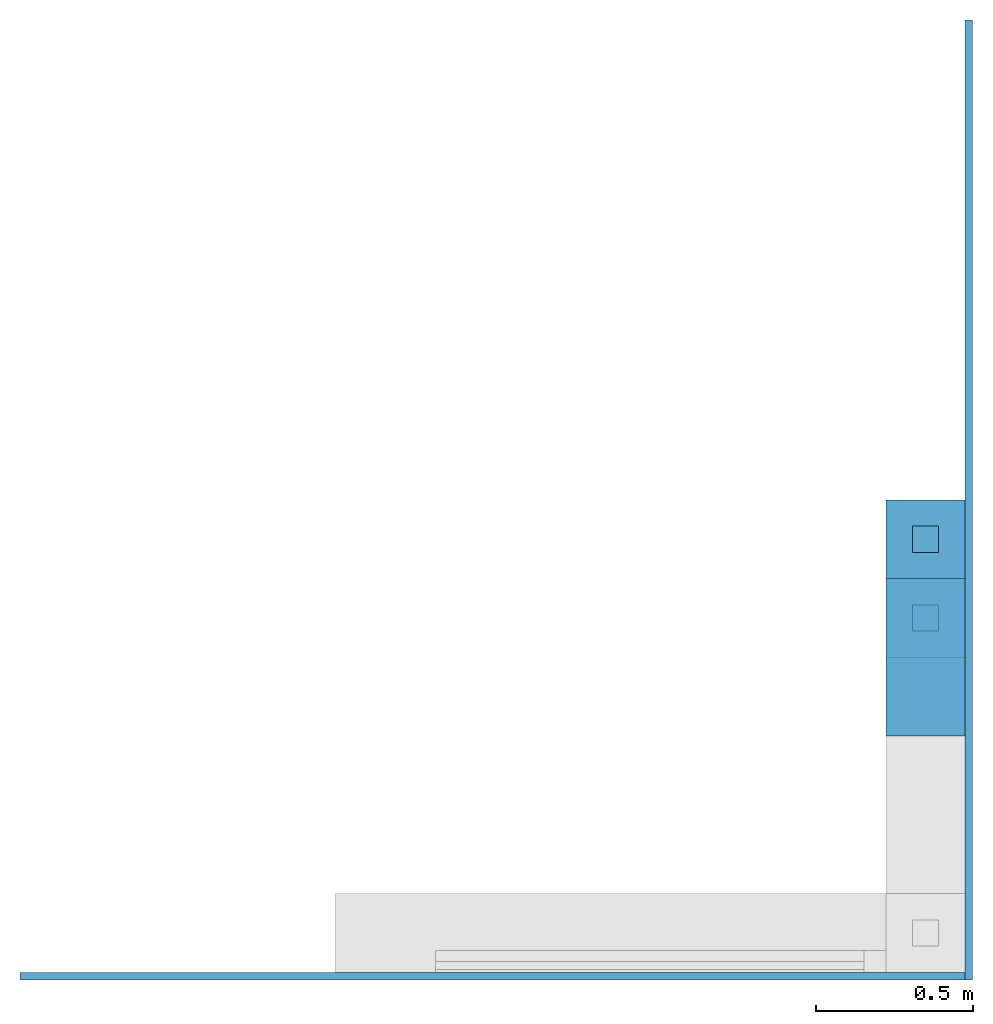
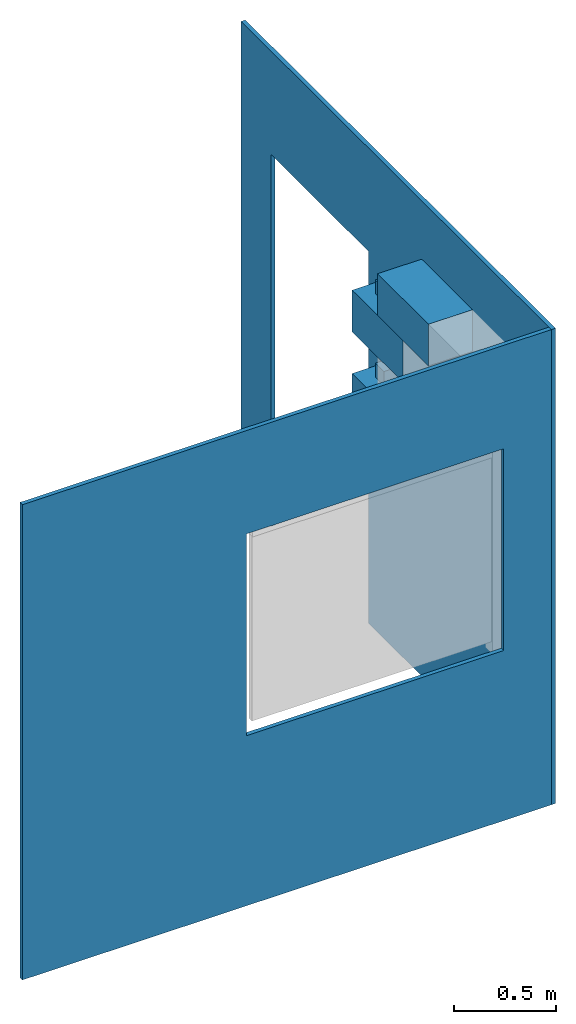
# One storey, part 4 of 5: 3 walls, 2 building element parts, 1 opening, 2 elements without a shape of their own.
"""IFC4 building model written with IfcOpenShell, lengths in centimetres."""

from ifc_helpers import new_model, entity, si_unit, converted_unit, direction, frame, origin, place, context, subcontext, project, spatial, indexed_curve, outline, extrude, polygons, material, type_object, element, aggregate, save


model = new_model("IFC4")

# Units and contexts
model_context = context("Model", 3, precision=0.001, world=origin(), true_north=direction((0.0, 1.0)))
body_context = subcontext(model_context, "Body", "Model", "MODEL_VIEW")
ifc_project = project(units=[si_unit("LENGTHUNIT", "METRE", prefix="CENTI"), si_unit("AREAUNIT", "SQUARE_METRE"), si_unit("VOLUMEUNIT", "CUBIC_METRE"), converted_unit("PLANEANGLEUNIT", "DEGREE", entity("IfcPlaneAngleMeasure", 0.017453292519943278), si_unit("PLANEANGLEUNIT", "RADIAN"), dimensions=[0, 0, 0, 0, 0, 0, 0])], contexts=[model_context])

# Site, building, storey
site_placement = place(None, origin())
site = spatial("IfcSite", under=ifc_project, at=site_placement, Name="Default", CompositionType="ELEMENT")
building_placement = place(site_placement, origin())
building = spatial("IfcBuilding", under=site, at=building_placement, CompositionType="ELEMENT")
storey_placement = place(building_placement, frame((0.0, 0.0, -4.0)))
storey = spatial("IfcBuildingStorey", under=building, at=storey_placement, Name="L00__ABOVE Slab", CompositionType="ELEMENT", Elevation=-4.000000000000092)

# Walls
ifc_material_1 = material(Name="Miscellaneous__Timber Block__Triqbriq, X", Category="Miscellaneous")
wall_type_1 = type_object("IfcWallType", Name="Columns : wll_s__TIMBER BLOCK__Triqbriq, Full Width__wp : WS25", PredefinedType="SOLIDWALL", material=ifc_material_1)
wall_1_placement = place(storey_placement, frame((3156.828914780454, 2228.52003096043, 200.0), z_axis=(0.0, 0.0, 1.0), x_axis=(0.0, 1.0, 0.0)))
element("IfcWall", 1, at=wall_1_placement, inside=storey, type_object=wall_type_1, material=ifc_material_1, Name="Columns : wll_s__TIMBER BLOCK__Triqbriq, Full Width__wp : WS25", PredefinedType="SOLIDWALL", context=body_context, shape_type="SweptSolid", body=[
    extrude(outline(indexed_curve([(-4.166666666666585, -4.166666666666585), (4.166666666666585, -4.166666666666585), (4.166666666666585, 4.166666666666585), (-4.166666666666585, 4.166666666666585), (-4.166666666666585, -4.166666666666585)], self_intersect=False)), frame((12.500000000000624, -12.500000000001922, 16.666666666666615)), (0.0, 0.0, 1.0), 16.66666666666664),
    extrude(outline(indexed_curve([(-4.166666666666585, -4.166666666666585), (4.166666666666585, -4.166666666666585), (4.166666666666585, 4.166666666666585), (-4.166666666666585, 4.166666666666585), (-4.166666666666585, -4.166666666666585)], self_intersect=False)), frame((37.50000000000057, -12.500000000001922, 16.66666666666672)), (0.0, 0.0, 1.0), 16.66666666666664),
    extrude(outline(indexed_curve([(-4.166666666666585, -4.166666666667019), (4.166666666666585, -4.166666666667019), (4.166666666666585, 4.166666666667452), (-4.166666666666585, 4.166666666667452), (-4.166666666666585, -4.166666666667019)], self_intersect=False)), frame((4.166666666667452, -4.166666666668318, 8.333333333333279)), (0.0, 0.0, 1.0), 8.333333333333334),
    extrude(outline(indexed_curve([(-4.166666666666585, -4.166666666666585), (4.166666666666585, -4.166666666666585), (4.166666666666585, 4.166666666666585), (-4.166666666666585, 4.166666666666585), (-4.166666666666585, -4.166666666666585)], self_intersect=False)), frame((4.166666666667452, -20.833333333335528, 8.333333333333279)), (0.0, 0.0, 1.0), 8.333333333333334),
    extrude(outline(indexed_curve([(-4.166666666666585, -4.166666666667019), (4.166666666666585, -4.166666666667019), (4.166666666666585, 4.166666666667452), (-4.166666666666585, 4.166666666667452), (-4.166666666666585, -4.166666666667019)], self_intersect=False)), frame((45.833333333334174, -4.166666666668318, 8.333333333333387)), (0.0, 0.0, 1.0), 8.333333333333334),
    extrude(outline(indexed_curve([(-4.166666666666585, -4.166666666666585), (4.166666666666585, -4.166666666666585), (4.166666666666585, 4.166666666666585), (-4.166666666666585, 4.166666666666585), (-4.166666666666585, -4.166666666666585)], self_intersect=False)), frame((45.833333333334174, -20.833333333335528, 8.333333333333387)), (0.0, 0.0, 1.0), 8.333333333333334),
    extrude(outline(indexed_curve([(-8.33333333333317, -4.166666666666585), (8.333333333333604, -4.166666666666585), (8.333333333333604, 4.166666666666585), (-8.33333333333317, 4.166666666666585), (-8.33333333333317, -4.166666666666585)], self_intersect=False)), frame((25.0, -20.833333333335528, 8.333333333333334)), (0.0, 0.0, 1.0), 8.333333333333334),
    extrude(outline(indexed_curve([(-8.33333333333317, -4.166666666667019), (8.333333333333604, -4.166666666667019), (8.333333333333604, 4.166666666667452), (-8.33333333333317, 4.166666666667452), (-8.33333333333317, -4.166666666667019)], self_intersect=False)), frame((25.0, -4.166666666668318, 8.333333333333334)), (0.0, 0.0, 1.0), 8.333333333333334),
    extrude(outline(indexed_curve([(-24.999999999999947, -4.166666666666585), (24.999999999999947, -4.166666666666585), (24.999999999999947, 4.166666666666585), (-24.999999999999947, 4.166666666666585), (-24.999999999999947, -4.166666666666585)], self_intersect=False)), frame((25.0, -12.500000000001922, 8.333333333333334)), (0.0, 0.0, 1.0), 8.333333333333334),
    extrude(outline(indexed_curve([(-4.166666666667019, -12.50000000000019), (4.166666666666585, -12.50000000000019), (4.166666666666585, 12.500000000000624), (-4.166666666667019, 12.500000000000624), (-4.166666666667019, -12.50000000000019)], self_intersect=False)), frame((20.833333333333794, -12.500000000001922, 0.0)), (0.0, 0.0, 1.0), 8.333333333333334),
    extrude(outline(indexed_curve([(-4.166666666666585, -12.50000000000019), (4.166666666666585, -12.50000000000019), (4.166666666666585, 12.500000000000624), (-4.166666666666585, 12.500000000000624), (-4.166666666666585, -12.50000000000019)], self_intersect=False)), frame((29.166666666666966, -12.500000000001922, 0.0)), (0.0, 0.0, 1.0), 8.333333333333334),
    extrude(outline(indexed_curve([(-4.166666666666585, -12.50000000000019), (4.166666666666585, -12.50000000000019), (4.166666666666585, 12.500000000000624), (-4.166666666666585, 12.500000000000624), (-4.166666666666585, -12.50000000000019)], self_intersect=False)), frame((4.166666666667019, -12.500000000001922, 0.0)), (0.0, 0.0, 1.0), 8.333333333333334),
    extrude(outline(indexed_curve([(-4.166666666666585, -12.50000000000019), (4.166666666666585, -12.50000000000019), (4.166666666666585, 12.500000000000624), (-4.166666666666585, 12.500000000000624), (-4.166666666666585, -12.50000000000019)], self_intersect=False)), frame((45.83333333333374, -12.500000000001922, 0.0)), (0.0, 0.0, 1.0), 8.333333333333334),
    extrude(outline(indexed_curve([(-4.166666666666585, -4.166666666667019), (4.166666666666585, -4.166666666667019), (4.166666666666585, 4.166666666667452), (-4.166666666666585, 4.166666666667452), (-4.166666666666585, -4.166666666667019)], self_intersect=False)), frame((12.50000000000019, -4.166666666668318, 0.0)), (0.0, 0.0, 1.0), 24.999999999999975),
    extrude(outline(indexed_curve([(-4.166666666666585, -4.166666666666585), (4.166666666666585, -4.166666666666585), (4.166666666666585, 4.166666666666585), (-4.166666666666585, 4.166666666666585), (-4.166666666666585, -4.166666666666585)], self_intersect=False)), frame((12.50000000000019, -20.833333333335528, 0.0)), (0.0, 0.0, 1.0), 24.999999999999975),
    extrude(outline(indexed_curve([(-4.166666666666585, -4.166666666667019), (4.166666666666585, -4.166666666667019), (4.166666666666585, 4.166666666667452), (-4.166666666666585, 4.166666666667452), (-4.166666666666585, -4.166666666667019)], self_intersect=False)), frame((37.500000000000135, -4.166666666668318, 0.0)), (0.0, 0.0, 1.0), 24.999999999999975),
    extrude(outline(indexed_curve([(-4.166666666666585, -4.166666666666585), (4.166666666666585, -4.166666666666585), (4.166666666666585, 4.166666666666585), (-4.166666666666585, 4.166666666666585), (-4.166666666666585, -4.166666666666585)], self_intersect=False)), frame((37.500000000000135, -20.833333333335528, 0.0)), (0.0, 0.0, 1.0), 24.999999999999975),
    extrude(outline(indexed_curve([(-4.166666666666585, -12.50000000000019), (4.166666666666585, -12.50000000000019), (4.166666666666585, 12.500000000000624), (-4.166666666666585, 12.500000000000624), (-4.166666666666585, -12.50000000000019)], self_intersect=False)), frame((4.166666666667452, -12.500000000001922, 16.666666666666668)), (0.0, 0.0, 1.0), 8.333333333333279),
    extrude(outline(indexed_curve([(-4.166666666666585, -12.50000000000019), (4.166666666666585, -12.50000000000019), (4.166666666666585, 12.500000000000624), (-4.166666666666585, 12.500000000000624), (-4.166666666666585, -12.50000000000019)], self_intersect=False)), frame((20.833333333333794, -12.500000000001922, 16.66666666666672)), (0.0, 0.0, 1.0), 8.333333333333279),
    extrude(outline(indexed_curve([(-4.166666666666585, -12.50000000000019), (4.166666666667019, -12.50000000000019), (4.166666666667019, 12.500000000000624), (-4.166666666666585, 12.500000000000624), (-4.166666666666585, -12.50000000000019)], self_intersect=False)), frame((29.166666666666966, -12.500000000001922, 16.66666666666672)), (0.0, 0.0, 1.0), 8.333333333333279),
    extrude(outline(indexed_curve([(-4.166666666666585, -12.50000000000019), (4.166666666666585, -12.50000000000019), (4.166666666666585, 12.500000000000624), (-4.166666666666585, 12.500000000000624), (-4.166666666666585, -12.50000000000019)], self_intersect=False)), frame((45.833333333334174, -12.500000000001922, 16.666666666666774)), (0.0, 0.0, 1.0), 8.333333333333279),
])
wall_2_placement = place(storey_placement, frame((3156.8289147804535, 2228.52003096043, 150.0), z_axis=(0.0, 0.0, 1.0), x_axis=(0.0, 1.0, 0.0)))
element("IfcWall", 2, at=wall_2_placement, inside=storey, type_object=wall_type_1, material=ifc_material_1, Name="Columns : wll_s__TIMBER BLOCK__Triqbriq, Full Width__wp : WS25", PredefinedType="SOLIDWALL", context=body_context, shape_type="SweptSolid", body=[
    extrude(outline(indexed_curve([(-4.166666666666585, -4.166666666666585), (4.166666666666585, -4.166666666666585), (4.166666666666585, 4.166666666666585), (-4.166666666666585, 4.166666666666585), (-4.166666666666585, -4.166666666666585)], self_intersect=False)), frame((12.500000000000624, -12.500000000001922, 16.666666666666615)), (0.0, 0.0, 1.0), 16.66666666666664),
    extrude(outline(indexed_curve([(-4.166666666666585, -4.166666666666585), (4.166666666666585, -4.166666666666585), (4.166666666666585, 4.166666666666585), (-4.166666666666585, 4.166666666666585), (-4.166666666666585, -4.166666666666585)], self_intersect=False)), frame((37.50000000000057, -12.500000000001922, 16.66666666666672)), (0.0, 0.0, 1.0), 16.66666666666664),
    extrude(outline(indexed_curve([(-4.166666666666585, -4.166666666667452), (4.166666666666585, -4.166666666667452), (4.166666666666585, 4.166666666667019), (-4.166666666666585, 4.166666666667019), (-4.166666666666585, -4.166666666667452)], self_intersect=False)), frame((4.166666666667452, -4.166666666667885, 8.333333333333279)), (0.0, 0.0, 1.0), 8.333333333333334),
    extrude(outline(indexed_curve([(-4.166666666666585, -4.166666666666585), (4.166666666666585, -4.166666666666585), (4.166666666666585, 4.166666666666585), (-4.166666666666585, 4.166666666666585), (-4.166666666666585, -4.166666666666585)], self_intersect=False)), frame((4.166666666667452, -20.833333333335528, 8.333333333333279)), (0.0, 0.0, 1.0), 8.333333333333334),
    extrude(outline(indexed_curve([(-4.166666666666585, -4.166666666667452), (4.166666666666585, -4.166666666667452), (4.166666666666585, 4.166666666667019), (-4.166666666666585, 4.166666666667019), (-4.166666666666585, -4.166666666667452)], self_intersect=False)), frame((45.833333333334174, -4.166666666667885, 8.333333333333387)), (0.0, 0.0, 1.0), 8.333333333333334),
    extrude(outline(indexed_curve([(-4.166666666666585, -4.166666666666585), (4.166666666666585, -4.166666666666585), (4.166666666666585, 4.166666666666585), (-4.166666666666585, 4.166666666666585), (-4.166666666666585, -4.166666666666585)], self_intersect=False)), frame((45.833333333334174, -20.833333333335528, 8.333333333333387)), (0.0, 0.0, 1.0), 8.333333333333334),
    extrude(outline(indexed_curve([(-8.33333333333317, -4.166666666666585), (8.333333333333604, -4.166666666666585), (8.333333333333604, 4.166666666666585), (-8.33333333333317, 4.166666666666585), (-8.33333333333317, -4.166666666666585)], self_intersect=False)), frame((25.0, -20.833333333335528, 8.333333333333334)), (0.0, 0.0, 1.0), 8.333333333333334),
    extrude(outline(indexed_curve([(-8.33333333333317, -4.166666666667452), (8.333333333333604, -4.166666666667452), (8.333333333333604, 4.166666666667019), (-8.33333333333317, 4.166666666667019), (-8.33333333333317, -4.166666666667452)], self_intersect=False)), frame((25.0, -4.166666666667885, 8.333333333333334)), (0.0, 0.0, 1.0), 8.333333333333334),
    extrude(outline(indexed_curve([(-24.999999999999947, -4.166666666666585), (24.999999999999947, -4.166666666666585), (24.999999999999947, 4.166666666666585), (-24.999999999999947, 4.166666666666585), (-24.999999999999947, -4.166666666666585)], self_intersect=False)), frame((25.0, -12.500000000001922, 8.333333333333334)), (0.0, 0.0, 1.0), 8.333333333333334),
    extrude(outline(indexed_curve([(-4.166666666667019, -12.50000000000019), (4.166666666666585, -12.50000000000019), (4.166666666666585, 12.500000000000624), (-4.166666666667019, 12.500000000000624), (-4.166666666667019, -12.50000000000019)], self_intersect=False)), frame((20.833333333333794, -12.500000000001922, 0.0)), (0.0, 0.0, 1.0), 8.333333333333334),
    extrude(outline(indexed_curve([(-4.166666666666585, -12.50000000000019), (4.166666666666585, -12.50000000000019), (4.166666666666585, 12.500000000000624), (-4.166666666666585, 12.500000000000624), (-4.166666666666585, -12.50000000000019)], self_intersect=False)), frame((29.166666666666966, -12.500000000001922, 0.0)), (0.0, 0.0, 1.0), 8.333333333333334),
    extrude(outline(indexed_curve([(-4.166666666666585, -12.50000000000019), (4.166666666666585, -12.50000000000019), (4.166666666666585, 12.500000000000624), (-4.166666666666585, 12.500000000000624), (-4.166666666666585, -12.50000000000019)], self_intersect=False)), frame((4.166666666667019, -12.500000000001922, 0.0)), (0.0, 0.0, 1.0), 8.333333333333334),
    extrude(outline(indexed_curve([(-4.166666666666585, -12.50000000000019), (4.166666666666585, -12.50000000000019), (4.166666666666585, 12.500000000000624), (-4.166666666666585, 12.500000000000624), (-4.166666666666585, -12.50000000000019)], self_intersect=False)), frame((45.83333333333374, -12.500000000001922, 0.0)), (0.0, 0.0, 1.0), 8.333333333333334),
    extrude(outline(indexed_curve([(-4.166666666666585, -4.166666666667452), (4.166666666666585, -4.166666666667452), (4.166666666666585, 4.166666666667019), (-4.166666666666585, 4.166666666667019), (-4.166666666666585, -4.166666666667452)], self_intersect=False)), frame((12.50000000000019, -4.166666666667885, 0.0)), (0.0, 0.0, 1.0), 24.999999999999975),
    extrude(outline(indexed_curve([(-4.166666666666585, -4.166666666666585), (4.166666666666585, -4.166666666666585), (4.166666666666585, 4.166666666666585), (-4.166666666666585, 4.166666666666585), (-4.166666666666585, -4.166666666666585)], self_intersect=False)), frame((12.50000000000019, -20.833333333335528, 0.0)), (0.0, 0.0, 1.0), 24.999999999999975),
    extrude(outline(indexed_curve([(-4.166666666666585, -4.166666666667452), (4.166666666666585, -4.166666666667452), (4.166666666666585, 4.166666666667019), (-4.166666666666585, 4.166666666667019), (-4.166666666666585, -4.166666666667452)], self_intersect=False)), frame((37.500000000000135, -4.166666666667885, 0.0)), (0.0, 0.0, 1.0), 24.999999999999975),
    extrude(outline(indexed_curve([(-4.166666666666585, -4.166666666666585), (4.166666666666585, -4.166666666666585), (4.166666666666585, 4.166666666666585), (-4.166666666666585, 4.166666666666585), (-4.166666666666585, -4.166666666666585)], self_intersect=False)), frame((37.500000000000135, -20.833333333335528, 0.0)), (0.0, 0.0, 1.0), 24.999999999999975),
    extrude(outline(indexed_curve([(-4.166666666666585, -12.50000000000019), (4.166666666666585, -12.50000000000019), (4.166666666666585, 12.500000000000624), (-4.166666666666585, 12.500000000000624), (-4.166666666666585, -12.50000000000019)], self_intersect=False)), frame((4.166666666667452, -12.500000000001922, 16.666666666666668)), (0.0, 0.0, 1.0), 8.333333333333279),
    extrude(outline(indexed_curve([(-4.166666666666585, -12.50000000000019), (4.166666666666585, -12.50000000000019), (4.166666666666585, 12.500000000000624), (-4.166666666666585, 12.500000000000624), (-4.166666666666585, -12.50000000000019)], self_intersect=False)), frame((20.833333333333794, -12.500000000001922, 16.66666666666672)), (0.0, 0.0, 1.0), 8.333333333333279),
    extrude(outline(indexed_curve([(-4.166666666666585, -12.50000000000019), (4.166666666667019, -12.50000000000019), (4.166666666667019, 12.500000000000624), (-4.166666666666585, 12.500000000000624), (-4.166666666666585, -12.50000000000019)], self_intersect=False)), frame((29.166666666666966, -12.500000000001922, 16.66666666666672)), (0.0, 0.0, 1.0), 8.333333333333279),
    extrude(outline(indexed_curve([(-4.166666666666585, -12.50000000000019), (4.166666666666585, -12.50000000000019), (4.166666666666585, 12.500000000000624), (-4.166666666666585, 12.500000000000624), (-4.166666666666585, -12.50000000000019)], self_intersect=False)), frame((45.833333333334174, -12.500000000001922, 16.666666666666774)), (0.0, 0.0, 1.0), 8.333333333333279),
])
wall_3_placement = place(storey_placement, frame((3156.8289147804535, 2203.5200309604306, 225.0), z_axis=(0.0, 0.0, 1.0), x_axis=(0.0, 1.0, 0.0)))
element("IfcWall", 3, at=wall_3_placement, inside=storey, type_object=wall_type_1, material=ifc_material_1, Name="Columns : wll_s__TIMBER BLOCK__Triqbriq, Full Width__wp : WS25", PredefinedType="SOLIDWALL", context=body_context, shape_type="SweptSolid", body=[
    extrude(outline(indexed_curve([(-4.166666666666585, -4.166666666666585), (4.166666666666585, -4.166666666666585), (4.166666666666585, 4.166666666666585), (-4.166666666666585, 4.166666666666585), (-4.166666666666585, -4.166666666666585)], self_intersect=False)), frame((12.500000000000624, -12.500000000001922, 16.66666666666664)), (0.0, 0.0, 1.0), 8.33333333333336),
    extrude(outline(indexed_curve([(-4.166666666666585, -4.166666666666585), (4.166666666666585, -4.166666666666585), (4.166666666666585, 4.166666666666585), (-4.166666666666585, 4.166666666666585), (-4.166666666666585, -4.166666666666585)], self_intersect=False)), frame((37.50000000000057, -12.500000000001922, 16.666666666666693)), (0.0, 0.0, 1.0), 8.333333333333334),
    extrude(outline(indexed_curve([(-4.166666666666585, -4.166666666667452), (4.166666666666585, -4.166666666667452), (4.166666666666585, 4.166666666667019), (-4.166666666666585, 4.166666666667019), (-4.166666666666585, -4.166666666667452)], self_intersect=False)), frame((4.166666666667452, -4.166666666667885, 8.333333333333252)), (0.0, 0.0, 1.0), 8.333333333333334),
    extrude(outline(indexed_curve([(-4.166666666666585, -4.166666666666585), (4.166666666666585, -4.166666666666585), (4.166666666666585, 4.166666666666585), (-4.166666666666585, 4.166666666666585), (-4.166666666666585, -4.166666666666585)], self_intersect=False)), frame((4.166666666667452, -20.833333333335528, 8.333333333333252)), (0.0, 0.0, 1.0), 8.333333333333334),
    extrude(outline(indexed_curve([(-4.166666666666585, -4.166666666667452), (4.166666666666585, -4.166666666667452), (4.166666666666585, 4.166666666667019), (-4.166666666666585, 4.166666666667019), (-4.166666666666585, -4.166666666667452)], self_intersect=False)), frame((45.833333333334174, -4.166666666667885, 8.333333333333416)), (0.0, 0.0, 1.0), 8.333333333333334),
    extrude(outline(indexed_curve([(-4.166666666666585, -4.166666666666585), (4.166666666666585, -4.166666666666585), (4.166666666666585, 4.166666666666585), (-4.166666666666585, 4.166666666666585), (-4.166666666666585, -4.166666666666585)], self_intersect=False)), frame((45.833333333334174, -20.833333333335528, 8.333333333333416)), (0.0, 0.0, 1.0), 8.333333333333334),
    extrude(outline(indexed_curve([(-8.33333333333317, -4.166666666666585), (8.333333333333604, -4.166666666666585), (8.333333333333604, 4.166666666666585), (-8.33333333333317, 4.166666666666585), (-8.33333333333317, -4.166666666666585)], self_intersect=False)), frame((25.0, -20.833333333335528, 8.33333333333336)), (0.0, 0.0, 1.0), 8.333333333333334),
    extrude(outline(indexed_curve([(-8.33333333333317, -4.166666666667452), (8.333333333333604, -4.166666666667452), (8.333333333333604, 4.166666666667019), (-8.33333333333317, 4.166666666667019), (-8.33333333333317, -4.166666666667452)], self_intersect=False)), frame((25.0, -4.166666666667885, 8.33333333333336)), (0.0, 0.0, 1.0), 8.333333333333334),
    extrude(outline(indexed_curve([(-24.999999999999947, -4.166666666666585), (24.999999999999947, -4.166666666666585), (24.999999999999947, 4.166666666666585), (-24.999999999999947, 4.166666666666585), (-24.999999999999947, -4.166666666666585)], self_intersect=False)), frame((25.0, -12.500000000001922, 8.333333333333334)), (0.0, 0.0, 1.0), 8.333333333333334),
    extrude(outline(indexed_curve([(-4.166666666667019, -12.50000000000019), (4.166666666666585, -12.50000000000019), (4.166666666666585, 12.500000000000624), (-4.166666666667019, 12.500000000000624), (-4.166666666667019, -12.50000000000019)], self_intersect=False)), frame((20.833333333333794, -12.500000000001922, 0.0)), (0.0, 0.0, 1.0), 8.333333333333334),
    extrude(outline(indexed_curve([(-4.166666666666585, -12.50000000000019), (4.166666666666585, -12.50000000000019), (4.166666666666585, 12.500000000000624), (-4.166666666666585, 12.500000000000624), (-4.166666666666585, -12.50000000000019)], self_intersect=False)), frame((29.166666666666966, -12.500000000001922, 0.0)), (0.0, 0.0, 1.0), 8.333333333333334),
    extrude(outline(indexed_curve([(-4.166666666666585, -12.50000000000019), (4.166666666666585, -12.50000000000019), (4.166666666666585, 12.500000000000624), (-4.166666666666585, 12.500000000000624), (-4.166666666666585, -12.50000000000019)], self_intersect=False)), frame((4.166666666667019, -12.500000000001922, 0.0)), (0.0, 0.0, 1.0), 8.333333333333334),
    extrude(outline(indexed_curve([(-4.166666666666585, -12.50000000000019), (4.166666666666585, -12.50000000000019), (4.166666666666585, 12.500000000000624), (-4.166666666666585, 12.500000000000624), (-4.166666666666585, -12.50000000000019)], self_intersect=False)), frame((45.83333333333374, -12.500000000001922, 0.0)), (0.0, 0.0, 1.0), 8.333333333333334),
    extrude(outline(indexed_curve([(-4.166666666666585, -4.166666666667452), (4.166666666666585, -4.166666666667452), (4.166666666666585, 4.166666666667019), (-4.166666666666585, 4.166666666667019), (-4.166666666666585, -4.166666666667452)], self_intersect=False)), frame((12.50000000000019, -4.166666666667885, 0.0)), (0.0, 0.0, 1.0), 24.999999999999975),
    extrude(outline(indexed_curve([(-4.166666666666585, -4.166666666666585), (4.166666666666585, -4.166666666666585), (4.166666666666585, 4.166666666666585), (-4.166666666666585, 4.166666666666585), (-4.166666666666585, -4.166666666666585)], self_intersect=False)), frame((12.50000000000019, -20.833333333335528, 0.0)), (0.0, 0.0, 1.0), 24.999999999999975),
    extrude(outline(indexed_curve([(-4.166666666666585, -4.166666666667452), (4.166666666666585, -4.166666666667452), (4.166666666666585, 4.166666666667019), (-4.166666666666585, 4.166666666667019), (-4.166666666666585, -4.166666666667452)], self_intersect=False)), frame((37.500000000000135, -4.166666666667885, 0.0)), (0.0, 0.0, 1.0), 24.999999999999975),
    extrude(outline(indexed_curve([(-4.166666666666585, -4.166666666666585), (4.166666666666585, -4.166666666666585), (4.166666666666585, 4.166666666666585), (-4.166666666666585, 4.166666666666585), (-4.166666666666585, -4.166666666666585)], self_intersect=False)), frame((37.500000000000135, -20.833333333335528, 0.0)), (0.0, 0.0, 1.0), 24.999999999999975),
    extrude(outline(indexed_curve([(-4.166666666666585, -12.50000000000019), (4.166666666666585, -12.50000000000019), (4.166666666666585, 12.500000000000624), (-4.166666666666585, 12.500000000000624), (-4.166666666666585, -12.50000000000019)], self_intersect=False)), frame((4.166666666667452, -12.500000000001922, 16.66666666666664)), (0.0, 0.0, 1.0), 8.333333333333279),
    extrude(outline(indexed_curve([(-4.166666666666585, -12.50000000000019), (4.166666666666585, -12.50000000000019), (4.166666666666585, 12.500000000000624), (-4.166666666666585, 12.500000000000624), (-4.166666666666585, -12.50000000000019)], self_intersect=False)), frame((20.833333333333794, -12.500000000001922, 16.666666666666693)), (0.0, 0.0, 1.0), 8.333333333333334),
    extrude(outline(indexed_curve([(-4.166666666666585, -12.50000000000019), (4.166666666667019, -12.50000000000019), (4.166666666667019, 12.500000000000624), (-4.166666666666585, 12.500000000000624), (-4.166666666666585, -12.50000000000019)], self_intersect=False)), frame((29.166666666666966, -12.500000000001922, 16.66666666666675)), (0.0, 0.0, 1.0), 8.333333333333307),
    extrude(outline(indexed_curve([(-4.166666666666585, -12.50000000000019), (4.166666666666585, -12.50000000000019), (4.166666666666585, 12.500000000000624), (-4.166666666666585, 12.500000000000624), (-4.166666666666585, -12.50000000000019)], self_intersect=False)), frame((45.833333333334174, -12.500000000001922, 16.666666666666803)), (0.0, 0.0, 1.0), 8.333333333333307),
])

# Wall, building element part, opening
wall_type_2 = type_object("IfcWallType", Name="Walls : Basic Wall : wll__EXT ENCLOSURE__Wood Cladding__TriqBriq 2", PredefinedType="STANDARD")
wall_4_placement = place(storey_placement, frame((3181.828914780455, 2127.3200309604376, 0.0), z_axis=(0.0, 0.0, 1.0), x_axis=(-1.0, 0.0, 0.0)))
wall_4 = element("IfcWall", 4, at=wall_4_placement, inside=storey, type_object=wall_type_2, Name="Walls : Basic Wall : wll__EXT ENCLOSURE__Wood Cladding__TriqBriq 2", PredefinedType="NOTDEFINED")
ifc_material_2 = material(Name="_FCD VENT FINISH__Wood Vertical", Category="Unassigned")
building_element_part_1_placement = place(wall_4_placement, origin())
building_element_part_1 = element("IfcBuildingElementPart", 5, at=building_element_part_1_placement, material=ifc_material_2, Name="_FCD VENT FINISH__Wood Vertical", context=body_context, shape_type="SweptSolid", body=[
    extrude(outline(indexed_curve([(-1.199999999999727, -149.99999999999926), (1.2000000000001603, -149.99999999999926), (1.199999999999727, 149.9999999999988), (-1.2000000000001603, 149.9999999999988), (-1.199999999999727, -149.99999999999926)], self_intersect=False)), frame((150.0, 0.0, 0.0), z_axis=(0.0, 0.0, 1.0), x_axis=(0.0, 1.0, 0.0)), (0.0, 0.0, 1.0), 284.99999999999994),
])
opening_placement = place(wall_4_placement, origin())
opening = element("IfcOpeningElement", 6, at=opening_placement, cuts=building_element_part_1, Name="Walls : Basic Wall : wll__EXT ENCLOSURE__Wood Cladding__TriqBriq 2:1", PredefinedType="OPENING", context=body_context, shape_type="SweptSolid", body=[
    extrude(outline(indexed_curve([(-60.5000000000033, -73.00000000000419), (60.50000000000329, -73.00000000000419), (60.50000000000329, 73.00000000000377), (-60.5000000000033, 73.00000000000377), (-60.5000000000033, -73.00000000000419)], self_intersect=False)), frame((100.0, 1.2000000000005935, 162.5000000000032), z_axis=(0.0, -1.0, 0.0), x_axis=(0.0, 0.0, -1.0)), (0.0, 0.0, 1.0), 2.3999999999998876),
])
aggregate(wall_4, [building_element_part_1, opening])

# Wall, building element part
wall_5_placement = place(storey_placement, frame((3183.028914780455, 2430.9200309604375, 0.0), z_axis=(0.0, 0.0, 1.0), x_axis=(0.0, -1.0, 0.0)))
wall_5 = element("IfcWall", 7, at=wall_5_placement, inside=storey, type_object=wall_type_2, Name="Walls : Basic Wall : wll__EXT ENCLOSURE__Wood Cladding__TriqBriq 2", PredefinedType="NOTDEFINED")
building_element_part_2_placement = place(wall_5_placement, frame((304.7999999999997, -1.199999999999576, 0.0)))
building_element_part_2 = element("IfcBuildingElementPart", 8, at=building_element_part_2_placement, material=ifc_material_2, Name="_FCD VENT FINISH__Wood Vertical", context=body_context, shape_type="Tessellation", body=[
    polygons([(0.0, -2.128196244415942e-13, 284.99999999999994), (-2.399999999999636, -2.1613981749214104e-13, 284.99999999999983), (-302.40000000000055, -1.764165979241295e-13, 284.99999999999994), (-304.8000000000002, -1.7973679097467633e-13, 284.99999999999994), (-304.8000000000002, -1.7973679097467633e-13, -2.7533531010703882e-14), (-302.40000000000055, -1.764165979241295e-13, -2.7533531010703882e-14), (-277.400000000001, -1.4183125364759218e-13, -2.7533531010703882e-14), (-275.400000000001, -1.3906442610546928e-13, -2.7533531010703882e-14), (-275.400000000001, 3.1568292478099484e-13, 223.00000000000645), (-179.40000000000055, 4.484906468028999e-13, 223.00000000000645), (-179.40000000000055, -6.256704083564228e-15, -2.7533531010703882e-14), (-177.40000000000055, -3.4898765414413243e-15, -2.7533531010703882e-14), (-2.399999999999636, -2.1613981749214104e-13, -2.7533531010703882e-14), (0.0, -2.128196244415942e-13, -2.7533531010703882e-14), (-304.8000000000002, 2.399999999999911, 284.99999999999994), (0.0, 2.3999999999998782, 284.99999999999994), (0.0, 2.3999999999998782, -2.7533531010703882e-14), (-179.40000000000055, 2.4000000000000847, -2.7533531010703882e-14), (-179.40000000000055, 2.4000000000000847, 223.00000000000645), (-275.400000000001, 2.399999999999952, 223.00000000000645), (-275.400000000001, 2.399999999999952, -2.7533531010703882e-14), (-304.8000000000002, 2.399999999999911, -2.7533531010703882e-14)], [[[1, 2, 3, 4, 5, 6, 7, 8, 9, 10, 11, 12, 13, 14]], [[15, 16, 17, 18, 19, 20, 21, 22]], [[6, 5, 22, 21, 8, 7]], [[2, 1, 16, 15, 4, 3]], [[5, 4, 15, 22]], [[9, 8, 21, 20]], [[11, 10, 19, 18]], [[10, 9, 20, 19]], [[1, 14, 17, 16]], [[12, 11, 18, 17, 14, 13]]], closed=True),
])
aggregate(wall_5, [building_element_part_2])

save(model, "model.ifc")
